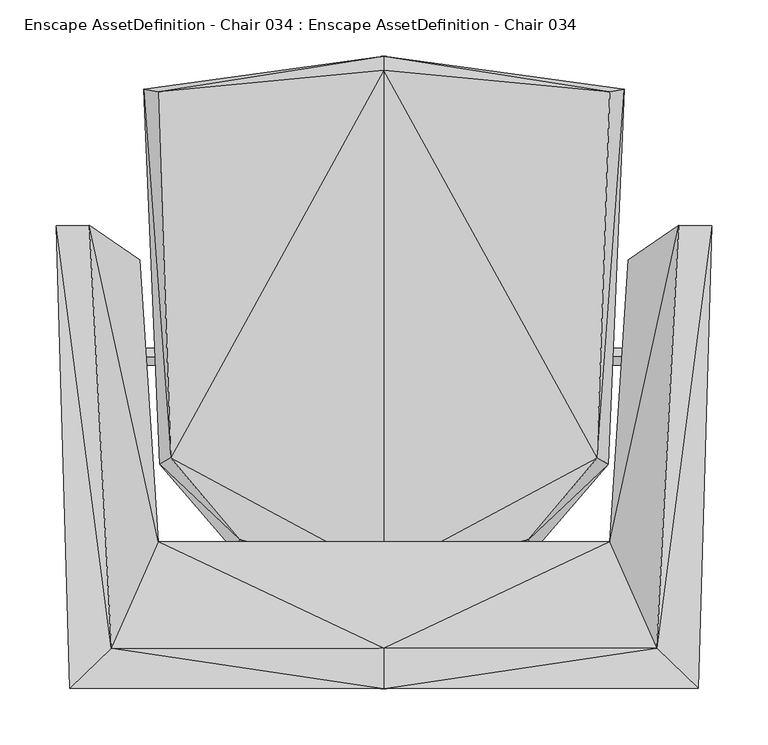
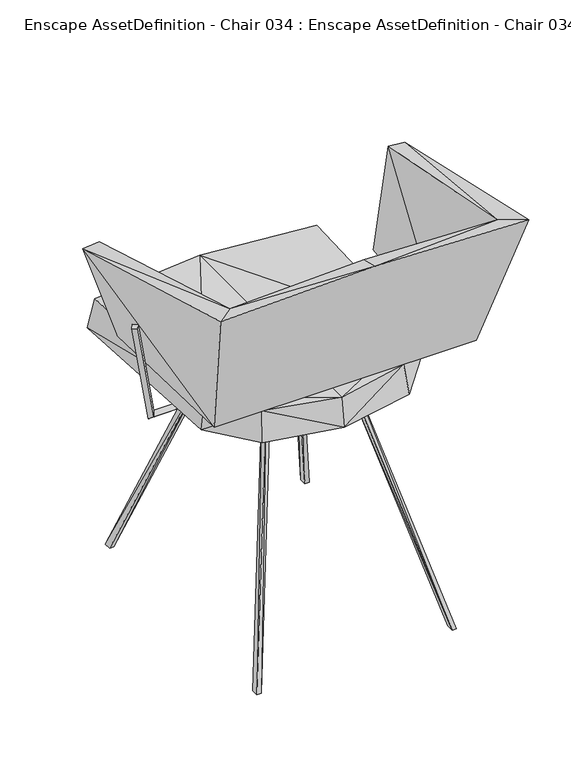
"""IFC4 building model written with IfcOpenShell, lengths in millimetres: geographic element geometry, Enscape AssetDefinition - Chair 034 : Enscape AssetDefinition - Chair 034."""

from ifc_helpers import new_model, si_unit, origin, place, context, project, spatial, triangles, source, transform, mapped, element, save


def enscape_assetdefinition_chair_034_enscape_assetdefinition_81589c5b(model_context):
    return source(origin(), model_context, "Body", "Tessellation", [
        triangles([(128.4109937, -163.0650104, 480.3420104), (-189.6599895, -89.9270055, 482.3930117), (0.0, -191.7660019, 479.0729745), (201.0419982, 235.8320077, 479.2829907), (189.6599895, -89.9270055, 482.3930117), (213.6310009, 237.997991, 425.9890054), (0.0, 267.3630046, 425.8819988), (0.0, 254.892999, 480.2840198), (-201.0419982, 235.8320077, 479.2829907), (-213.6310009, 237.997991, 425.9890054), (199.4599909, -95.7430022, 428.5239887), (-128.4109937, -163.0650104, 480.3420104), (-199.4599909, -95.7430022, 428.5239887), (-133.390995, -172.6999964, 426.7540023), (0.0, -198.9230142, 425.8030066), (133.390995, -172.6999964, 426.7540023), (247.8179948, 86.8439996, 518.4469883), (262.2379904, 116.7860038, 681.7549707), (291.7009812, 116.4589979, 679.1200298), (218.2630038, 86.9129998, 520.8670077), (217.271004, 86.2420015, 517.2730047), (246.8270124, 86.1800049, 514.8520042), (200.6669848, -164.8239873, 510.9639785), (237.514009, -201.8090117, 510.9639785), (0.0, -295.3810073, 793.2059441), (279.5610064, -295.0069931, 784.329015), (242.6689995, -259.3060109, 775.0319807), (0.0, -201.7480053, 510.9620164), (0.0, -259.680988, 783.9090551), (0.0, -164.8609945, 510.9620164), (-291.7009812, 116.4589979, 679.1200298), (-237.514009, -201.8090117, 510.9639785), (-246.8270124, 86.1800049, 514.8520042), (-200.6669848, -164.8239873, 510.9639785), (-279.5610064, -295.0069931, 784.329015), (-242.6689995, -259.3060109, 775.0319807), (-217.271004, 86.2420015, 517.2730047), (-218.2630038, 86.9129998, 520.8670077), (-247.8179948, 86.8439996, 518.4469883), (-262.2379904, 116.7860038, 681.7549707), (180.8810014, 237.9740099, 0.0), (173.217988, 224.7000019, 0.0), (180.8829998, 224.6980034, 0.0), (85.6380049, 86.2780004, 395.6410031), (83.0499998, 95.9369948, 408.4479976), (173.2150085, 237.9750092, 0.0), (85.6380049, -86.2780004, 395.6410031), (78.1519975, 86.6690012, 393.9769695), (78.1519975, -86.6690012, 393.9769695), (173.217988, -224.7000019, 0.0), (75.496005, 95.9309995, 407.0590199), (75.496005, -95.9309995, 407.0590199), (83.0499998, -95.9369948, 408.4479976), (173.2150085, -237.9750092, 0.0), (180.8829998, -224.6980034, 0.0), (180.8810014, -237.9740099, 0.0), (-75.496005, -95.9309995, 407.0590199), (-83.0499998, -95.9369948, 408.4479976), (-78.1519975, -86.6690012, 393.9769695), (-75.496005, 95.9309995, 407.0590199), (-173.2150085, -237.9750092, 0.0), (-180.8810014, -237.9740099, 0.0), (-78.1519975, 86.6690012, 393.9769695), (-85.6380049, 86.2780004, 395.6410031), (-180.8829998, -224.6980034, 0.0), (-85.6380049, -86.2780004, 395.6410031), (-173.217988, 224.7000019, 0.0), (-173.2150085, 237.9750092, 0.0), (-180.8810014, 237.9740099, 0.0), (-83.0499998, 95.9369948, 408.4479976), (-180.8829998, 224.6980034, 0.0), (-173.217988, -224.7000019, 0.0), (-165.0249925, -82.121995, 412.371995), (-157.0770038, -74.1539948, 405.4440022), (-165.0249925, 82.121995, 412.371995), (-149.120004, 66.1840007, 412.371995), (165.0249925, -82.121995, 412.371995), (-157.0770038, 74.1539948, 405.4440022), (-149.120004, -66.1840007, 412.371995), (-157.0770038, -74.1539948, 419.2999878), (149.120004, -66.1840007, 412.371995), (157.0770038, 74.1539948, 405.4440022), (157.0770038, -74.1539948, 405.4440022), (149.120004, 66.1840007, 412.371995), (157.0770038, -74.1539948, 419.2999878), (-157.0770038, 74.1539948, 419.2999878), (157.0770038, 74.1539948, 419.2999878), (165.0249925, 82.121995, 412.371995), (157.0770038, 0.0, 405.9060016), (157.0770038, 0.0, 418.8379884), (157.0770038, 7.4669997, 412.371995), (230.2930108, 0.004, 418.8089931), (234.5930027, -7.4639998, 412.3520107), (157.0770038, -7.4669997, 412.371995), (279.6039907, -35.3810004, 612.4569477), (286.8619779, -28.7180009, 611.754011), (240.5479989, -0.005, 405.9390301), (281.6180029, -20.6700001, 614.055978), (236.2470078, 7.4639998, 412.3929966), (274.3599976, -27.3329996, 614.7590601), (-157.0770038, 0.0, 405.9060016), (-157.0770038, -7.4669997, 412.371995), (-236.2470078, 7.4639998, 412.3929966), (-240.5479989, -0.005, 405.9390301), (-234.5930027, -7.4639998, 412.3520107), (-286.8619779, -28.7180009, 611.754011), (-157.0770038, 7.4669997, 412.371995), (-157.0770038, 0.0, 418.8379884), (-230.2930108, 0.004, 418.8089931), (-279.6039907, -35.3810004, 612.4569477), (-274.3599976, -27.3329996, 614.7590601), (-281.6180029, -20.6700001, 614.055978)], [[112, 103, 106], [106, 111, 112], [110, 111, 106], [111, 109, 112], [112, 109, 103], [110, 109, 111], [109, 107, 103], [108, 107, 109], [109, 102, 108], [105, 109, 110], [105, 102, 109], [106, 105, 110], [104, 105, 106], [106, 103, 104], [102, 101, 108], [104, 101, 105], [107, 101, 103], [108, 101, 107], [105, 101, 102], [103, 101, 104], [100, 98, 92], [92, 98, 99], [100, 92, 95], [98, 96, 99], [95, 96, 100], [100, 96, 98], [99, 96, 97], [95, 93, 96], [96, 93, 97], [95, 92, 93], [93, 92, 94], [94, 92, 90], [99, 91, 92], [92, 91, 90], [94, 90, 89], [97, 93, 89], [97, 89, 99], [89, 90, 91], [89, 93, 94], [99, 89, 91], [88, 78, 75], [88, 75, 87], [87, 75, 86], [87, 86, 84], [87, 84, 85], [88, 87, 77], [77, 87, 85], [82, 78, 88], [77, 82, 88], [83, 82, 77], [84, 82, 81], [81, 82, 83], [85, 84, 81], [81, 80, 85], [79, 80, 81], [79, 86, 80], [83, 79, 81], [76, 86, 79], [84, 76, 82], [84, 86, 76], [82, 76, 78], [74, 79, 83], [78, 76, 74], [77, 74, 83], [74, 76, 79], [80, 86, 73], [75, 78, 73], [73, 74, 77], [80, 73, 85], [73, 86, 75], [73, 78, 74], [85, 73, 77], [72, 62, 65], [71, 64, 69], [69, 64, 70], [71, 69, 67], [67, 64, 71], [69, 70, 68], [67, 69, 68], [63, 64, 67], [68, 63, 67], [65, 66, 72], [65, 62, 66], [64, 66, 70], [63, 66, 64], [66, 62, 58], [70, 66, 58], [61, 62, 72], [62, 61, 58], [72, 59, 61], [59, 66, 63], [72, 66, 59], [60, 63, 68], [68, 70, 60], [60, 59, 63], [57, 59, 60], [58, 57, 70], [58, 61, 57], [61, 59, 57], [70, 57, 60], [55, 47, 56], [55, 56, 50], [50, 47, 55], [50, 56, 54], [56, 53, 54], [56, 47, 53], [54, 53, 52], [52, 53, 51], [49, 47, 50], [52, 49, 54], [52, 51, 49], [54, 49, 50], [47, 49, 44], [44, 49, 48], [49, 51, 48], [43, 44, 42], [42, 44, 48], [42, 48, 46], [46, 48, 51], [44, 45, 47], [51, 53, 45], [45, 46, 51], [47, 45, 53], [46, 41, 42], [41, 46, 45], [43, 41, 44], [42, 41, 43], [44, 41, 45], [31, 40, 39], [40, 38, 39], [37, 33, 38], [33, 39, 38], [38, 40, 34], [37, 38, 34], [34, 33, 37], [36, 34, 40], [40, 31, 36], [36, 31, 35], [32, 33, 34], [33, 32, 39], [32, 35, 31], [32, 31, 39], [34, 28, 32], [30, 28, 34], [36, 29, 34], [34, 29, 30], [35, 32, 25], [35, 25, 36], [25, 32, 28], [36, 25, 29], [24, 25, 28], [26, 25, 24], [29, 25, 27], [27, 25, 26], [30, 23, 28], [27, 23, 29], [28, 23, 24], [29, 23, 30], [21, 22, 23], [23, 22, 24], [21, 23, 20], [21, 20, 22], [27, 18, 23], [20, 23, 18], [18, 27, 19], [26, 24, 19], [19, 27, 26], [19, 17, 18], [17, 22, 20], [24, 22, 17], [17, 20, 18], [24, 17, 19], [15, 12, 14], [16, 15, 11], [14, 13, 15], [12, 13, 14], [15, 7, 11], [6, 11, 7], [15, 13, 7], [7, 4, 6], [10, 7, 13], [9, 7, 10], [2, 13, 12], [13, 2, 10], [10, 2, 9], [8, 9, 2], [8, 7, 9], [8, 4, 7], [11, 6, 5], [4, 8, 5], [5, 6, 4], [3, 8, 2], [3, 12, 15], [8, 3, 5], [12, 3, 2], [5, 1, 11], [16, 1, 15], [11, 1, 16], [5, 3, 1], [15, 1, 3]]),
    ])


if __name__ == "__main__":
    model = new_model("IFC4")
    model_context = context("Model", 3, world=origin())
    ifc_project = project(units=[si_unit("LENGTHUNIT", "METRE", prefix="MILLI")], contexts=[model_context])
    site = spatial("IfcSite", under=ifc_project)
    building = spatial("IfcBuilding", under=site)
    placement = place(None, origin())
    enscape_assetdefinition_chair_034_enscape_assetdefinition_shape = enscape_assetdefinition_chair_034_enscape_assetdefinition_81589c5b(model_context)
    element("IfcGeographicElement", 1, ObjectType="Enscape AssetDefinition - Chair 034 : Enscape AssetDefinition - Chair 034", at=placement, inside=building, context=model_context, shape_type="MappedRepresentation", body=[
        mapped(enscape_assetdefinition_chair_034_enscape_assetdefinition_shape, transform((0.0, 0.0, 0.0), x_axis=(1.0, 0.0, 0.0), y_axis=(0.0, 1.0, 0.0), z_axis=(0.0, 0.0, 1.0))),
    ])
    save(model, "model.ifc")
